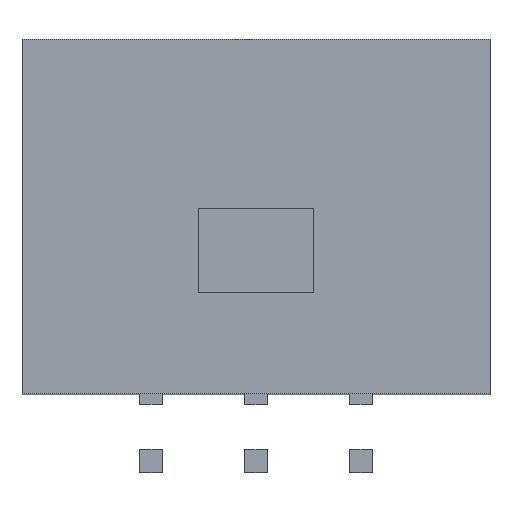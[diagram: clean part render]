
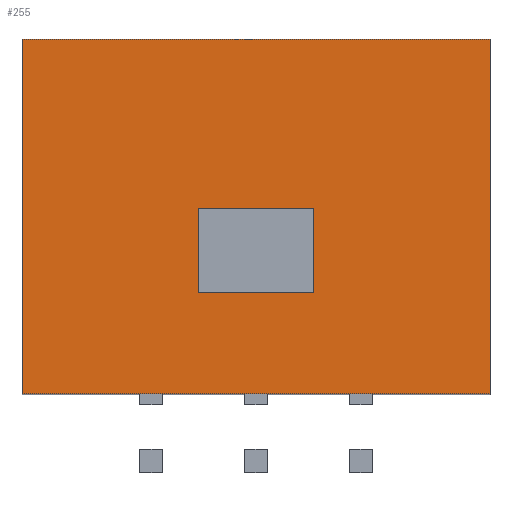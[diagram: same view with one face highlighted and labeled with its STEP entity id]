
A CAD part, top view. The second image highlights one B-rep face of the part: STEP entity #255.
In plain terms, the highlighted planar face has unit normal (0, 0, 1).
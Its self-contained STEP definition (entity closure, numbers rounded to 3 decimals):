
#66 = VERTEX_POINT('',#67);
#67 = CARTESIAN_POINT('',(-3.685,-1.1,9.3));
#74 = PLANE('',#75);
#75 = AXIS2_PLACEMENT_3D('',#76,#77,#78);
#76 = CARTESIAN_POINT('',(-3.685,-1.1,0.));
#77 = DIRECTION('',(1.,0.,0.));
#78 = DIRECTION('',(0.,0.,1.));
#86 = PLANE('',#87);
#87 = AXIS2_PLACEMENT_3D('',#88,#89,#90);
#88 = CARTESIAN_POINT('',(-3.685,-1.1,0.));
#89 = DIRECTION('',(0.,1.,0.));
#90 = DIRECTION('',(0.,0.,1.));
#127 = VERTEX_POINT('',#128);
#128 = CARTESIAN_POINT('',(-3.685,9.03,9.3));
#142 = PLANE('',#143);
#143 = AXIS2_PLACEMENT_3D('',#144,#145,#146);
#144 = CARTESIAN_POINT('',(-3.685,9.03,0.));
#145 = DIRECTION('',(0.,1.,0.));
#146 = DIRECTION('',(0.,0.,1.));
#154 = EDGE_CURVE('',#66,#127,#155,.T.);
#155 = SURFACE_CURVE('',#156,(#160,#167),.PCURVE_S1.);
#156 = LINE('',#157,#158);
#157 = CARTESIAN_POINT('',(-3.685,-1.1,9.3));
#158 = VECTOR('',#159,1.);
#159 = DIRECTION('',(0.,1.,0.));
#160 = PCURVE('',#74,#161);
#161 = DEFINITIONAL_REPRESENTATION('',(#162),#166);
#162 = LINE('',#163,#164);
#163 = CARTESIAN_POINT('',(9.3,0.));
#164 = VECTOR('',#165,1.);
#165 = DIRECTION('',(0.,-1.));
#166 = ( GEOMETRIC_REPRESENTATION_CONTEXT(2) 
PARAMETRIC_REPRESENTATION_CONTEXT() REPRESENTATION_CONTEXT('2D SPACE',''
  ) );
#167 = PCURVE('',#168,#173);
#168 = PLANE('',#169);
#169 = AXIS2_PLACEMENT_3D('',#170,#171,#172);
#170 = CARTESIAN_POINT('',(-3.685,-1.1,9.3));
#171 = DIRECTION('',(0.,0.,1.));
#172 = DIRECTION('',(1.,0.,0.));
#173 = DEFINITIONAL_REPRESENTATION('',(#174),#178);
#174 = LINE('',#175,#176);
#175 = CARTESIAN_POINT('',(0.,0.));
#176 = VECTOR('',#177,1.);
#177 = DIRECTION('',(0.,1.));
#178 = ( GEOMETRIC_REPRESENTATION_CONTEXT(2) 
PARAMETRIC_REPRESENTATION_CONTEXT() REPRESENTATION_CONTEXT('2D SPACE',''
  ) );
#207 = EDGE_CURVE('',#66,#208,#210,.T.);
#208 = VERTEX_POINT('',#209);
#209 = CARTESIAN_POINT('',(9.685,-1.1,9.3));
#210 = SURFACE_CURVE('',#211,(#215,#222),.PCURVE_S1.);
#211 = LINE('',#212,#213);
#212 = CARTESIAN_POINT('',(-3.685,-1.1,9.3));
#213 = VECTOR('',#214,1.);
#214 = DIRECTION('',(1.,0.,0.));
#215 = PCURVE('',#86,#216);
#216 = DEFINITIONAL_REPRESENTATION('',(#217),#221);
#217 = LINE('',#218,#219);
#218 = CARTESIAN_POINT('',(9.3,0.));
#219 = VECTOR('',#220,1.);
#220 = DIRECTION('',(0.,1.));
#221 = ( GEOMETRIC_REPRESENTATION_CONTEXT(2) 
PARAMETRIC_REPRESENTATION_CONTEXT() REPRESENTATION_CONTEXT('2D SPACE',''
  ) );
#222 = PCURVE('',#168,#223);
#223 = DEFINITIONAL_REPRESENTATION('',(#224),#228);
#224 = LINE('',#225,#226);
#225 = CARTESIAN_POINT('',(0.,0.));
#226 = VECTOR('',#227,1.);
#227 = DIRECTION('',(1.,0.));
#228 = ( GEOMETRIC_REPRESENTATION_CONTEXT(2) 
PARAMETRIC_REPRESENTATION_CONTEXT() REPRESENTATION_CONTEXT('2D SPACE',''
  ) );
#244 = PLANE('',#245);
#245 = AXIS2_PLACEMENT_3D('',#246,#247,#248);
#246 = CARTESIAN_POINT('',(9.685,-1.1,0.));
#247 = DIRECTION('',(1.,0.,0.));
#248 = DIRECTION('',(0.,0.,1.));
#255 = ADVANCED_FACE('',(#256,#304),#168,.T.);
#256 = FACE_BOUND('',#257,.T.);
#257 = EDGE_LOOP('',(#258,#259,#260,#283));
#258 = ORIENTED_EDGE('',*,*,#154,.F.);
#259 = ORIENTED_EDGE('',*,*,#207,.T.);
#260 = ORIENTED_EDGE('',*,*,#261,.T.);
#261 = EDGE_CURVE('',#208,#262,#264,.T.);
#262 = VERTEX_POINT('',#263);
#263 = CARTESIAN_POINT('',(9.685,9.03,9.3));
#264 = SURFACE_CURVE('',#265,(#269,#276),.PCURVE_S1.);
#265 = LINE('',#266,#267);
#266 = CARTESIAN_POINT('',(9.685,-1.1,9.3));
#267 = VECTOR('',#268,1.);
#268 = DIRECTION('',(0.,1.,0.));
#269 = PCURVE('',#168,#270);
#270 = DEFINITIONAL_REPRESENTATION('',(#271),#275);
#271 = LINE('',#272,#273);
#272 = CARTESIAN_POINT('',(13.37,0.));
#273 = VECTOR('',#274,1.);
#274 = DIRECTION('',(0.,1.));
#275 = ( GEOMETRIC_REPRESENTATION_CONTEXT(2) 
PARAMETRIC_REPRESENTATION_CONTEXT() REPRESENTATION_CONTEXT('2D SPACE',''
  ) );
#276 = PCURVE('',#244,#277);
#277 = DEFINITIONAL_REPRESENTATION('',(#278),#282);
#278 = LINE('',#279,#280);
#279 = CARTESIAN_POINT('',(9.3,0.));
#280 = VECTOR('',#281,1.);
#281 = DIRECTION('',(0.,-1.));
#282 = ( GEOMETRIC_REPRESENTATION_CONTEXT(2) 
PARAMETRIC_REPRESENTATION_CONTEXT() REPRESENTATION_CONTEXT('2D SPACE',''
  ) );
#283 = ORIENTED_EDGE('',*,*,#284,.F.);
#284 = EDGE_CURVE('',#127,#262,#285,.T.);
#285 = SURFACE_CURVE('',#286,(#290,#297),.PCURVE_S1.);
#286 = LINE('',#287,#288);
#287 = CARTESIAN_POINT('',(-3.685,9.03,9.3));
#288 = VECTOR('',#289,1.);
#289 = DIRECTION('',(1.,0.,0.));
#290 = PCURVE('',#168,#291);
#291 = DEFINITIONAL_REPRESENTATION('',(#292),#296);
#292 = LINE('',#293,#294);
#293 = CARTESIAN_POINT('',(0.,10.13));
#294 = VECTOR('',#295,1.);
#295 = DIRECTION('',(1.,0.));
#296 = ( GEOMETRIC_REPRESENTATION_CONTEXT(2) 
PARAMETRIC_REPRESENTATION_CONTEXT() REPRESENTATION_CONTEXT('2D SPACE',''
  ) );
#297 = PCURVE('',#142,#298);
#298 = DEFINITIONAL_REPRESENTATION('',(#299),#303);
#299 = LINE('',#300,#301);
#300 = CARTESIAN_POINT('',(9.3,0.));
#301 = VECTOR('',#302,1.);
#302 = DIRECTION('',(0.,1.));
#303 = ( GEOMETRIC_REPRESENTATION_CONTEXT(2) 
PARAMETRIC_REPRESENTATION_CONTEXT() REPRESENTATION_CONTEXT('2D SPACE',''
  ) );
#304 = FACE_BOUND('',#305,.T.);
#305 = EDGE_LOOP('',(#306,#336,#364,#392));
#306 = ORIENTED_EDGE('',*,*,#307,.T.);
#307 = EDGE_CURVE('',#308,#310,#312,.T.);
#308 = VERTEX_POINT('',#309);
#309 = CARTESIAN_POINT('',(1.35,1.8,9.3));
#310 = VERTEX_POINT('',#311);
#311 = CARTESIAN_POINT('',(1.35,4.2,9.3));
#312 = SURFACE_CURVE('',#313,(#317,#324),.PCURVE_S1.);
#313 = LINE('',#314,#315);
#314 = CARTESIAN_POINT('',(1.35,1.8,9.3));
#315 = VECTOR('',#316,1.);
#316 = DIRECTION('',(0.,1.,0.));
#317 = PCURVE('',#168,#318);
#318 = DEFINITIONAL_REPRESENTATION('',(#319),#323);
#319 = LINE('',#320,#321);
#320 = CARTESIAN_POINT('',(5.035,2.9));
#321 = VECTOR('',#322,1.);
#322 = DIRECTION('',(0.,1.));
#323 = ( GEOMETRIC_REPRESENTATION_CONTEXT(2) 
PARAMETRIC_REPRESENTATION_CONTEXT() REPRESENTATION_CONTEXT('2D SPACE',''
  ) );
#324 = PCURVE('',#325,#330);
#325 = PLANE('',#326);
#326 = AXIS2_PLACEMENT_3D('',#327,#328,#329);
#327 = CARTESIAN_POINT('',(1.35,1.8,9.3));
#328 = DIRECTION('',(1.,0.,0.));
#329 = DIRECTION('',(0.,0.,1.));
#330 = DEFINITIONAL_REPRESENTATION('',(#331),#335);
#331 = LINE('',#332,#333);
#332 = CARTESIAN_POINT('',(0.,0.));
#333 = VECTOR('',#334,1.);
#334 = DIRECTION('',(0.,-1.));
#335 = ( GEOMETRIC_REPRESENTATION_CONTEXT(2) 
PARAMETRIC_REPRESENTATION_CONTEXT() REPRESENTATION_CONTEXT('2D SPACE',''
  ) );
#336 = ORIENTED_EDGE('',*,*,#337,.T.);
#337 = EDGE_CURVE('',#310,#338,#340,.T.);
#338 = VERTEX_POINT('',#339);
#339 = CARTESIAN_POINT('',(4.65,4.2,9.3));
#340 = SURFACE_CURVE('',#341,(#345,#352),.PCURVE_S1.);
#341 = LINE('',#342,#343);
#342 = CARTESIAN_POINT('',(1.35,4.2,9.3));
#343 = VECTOR('',#344,1.);
#344 = DIRECTION('',(1.,0.,0.));
#345 = PCURVE('',#168,#346);
#346 = DEFINITIONAL_REPRESENTATION('',(#347),#351);
#347 = LINE('',#348,#349);
#348 = CARTESIAN_POINT('',(5.035,5.3));
#349 = VECTOR('',#350,1.);
#350 = DIRECTION('',(1.,0.));
#351 = ( GEOMETRIC_REPRESENTATION_CONTEXT(2) 
PARAMETRIC_REPRESENTATION_CONTEXT() REPRESENTATION_CONTEXT('2D SPACE',''
  ) );
#352 = PCURVE('',#353,#358);
#353 = PLANE('',#354);
#354 = AXIS2_PLACEMENT_3D('',#355,#356,#357);
#355 = CARTESIAN_POINT('',(1.35,4.2,9.3));
#356 = DIRECTION('',(0.,1.,0.));
#357 = DIRECTION('',(0.,0.,1.));
#358 = DEFINITIONAL_REPRESENTATION('',(#359),#363);
#359 = LINE('',#360,#361);
#360 = CARTESIAN_POINT('',(0.,0.));
#361 = VECTOR('',#362,1.);
#362 = DIRECTION('',(0.,1.));
#363 = ( GEOMETRIC_REPRESENTATION_CONTEXT(2) 
PARAMETRIC_REPRESENTATION_CONTEXT() REPRESENTATION_CONTEXT('2D SPACE',''
  ) );
#364 = ORIENTED_EDGE('',*,*,#365,.F.);
#365 = EDGE_CURVE('',#366,#338,#368,.T.);
#366 = VERTEX_POINT('',#367);
#367 = CARTESIAN_POINT('',(4.65,1.8,9.3));
#368 = SURFACE_CURVE('',#369,(#373,#380),.PCURVE_S1.);
#369 = LINE('',#370,#371);
#370 = CARTESIAN_POINT('',(4.65,1.8,9.3));
#371 = VECTOR('',#372,1.);
#372 = DIRECTION('',(0.,1.,0.));
#373 = PCURVE('',#168,#374);
#374 = DEFINITIONAL_REPRESENTATION('',(#375),#379);
#375 = LINE('',#376,#377);
#376 = CARTESIAN_POINT('',(8.335,2.9));
#377 = VECTOR('',#378,1.);
#378 = DIRECTION('',(0.,1.));
#379 = ( GEOMETRIC_REPRESENTATION_CONTEXT(2) 
PARAMETRIC_REPRESENTATION_CONTEXT() REPRESENTATION_CONTEXT('2D SPACE',''
  ) );
#380 = PCURVE('',#381,#386);
#381 = PLANE('',#382);
#382 = AXIS2_PLACEMENT_3D('',#383,#384,#385);
#383 = CARTESIAN_POINT('',(4.65,1.8,9.3));
#384 = DIRECTION('',(1.,0.,0.));
#385 = DIRECTION('',(0.,0.,1.));
#386 = DEFINITIONAL_REPRESENTATION('',(#387),#391);
#387 = LINE('',#388,#389);
#388 = CARTESIAN_POINT('',(0.,0.));
#389 = VECTOR('',#390,1.);
#390 = DIRECTION('',(0.,-1.));
#391 = ( GEOMETRIC_REPRESENTATION_CONTEXT(2) 
PARAMETRIC_REPRESENTATION_CONTEXT() REPRESENTATION_CONTEXT('2D SPACE',''
  ) );
#392 = ORIENTED_EDGE('',*,*,#393,.F.);
#393 = EDGE_CURVE('',#308,#366,#394,.T.);
#394 = SURFACE_CURVE('',#395,(#399,#406),.PCURVE_S1.);
#395 = LINE('',#396,#397);
#396 = CARTESIAN_POINT('',(1.35,1.8,9.3));
#397 = VECTOR('',#398,1.);
#398 = DIRECTION('',(1.,0.,0.));
#399 = PCURVE('',#168,#400);
#400 = DEFINITIONAL_REPRESENTATION('',(#401),#405);
#401 = LINE('',#402,#403);
#402 = CARTESIAN_POINT('',(5.035,2.9));
#403 = VECTOR('',#404,1.);
#404 = DIRECTION('',(1.,0.));
#405 = ( GEOMETRIC_REPRESENTATION_CONTEXT(2) 
PARAMETRIC_REPRESENTATION_CONTEXT() REPRESENTATION_CONTEXT('2D SPACE',''
  ) );
#406 = PCURVE('',#407,#412);
#407 = PLANE('',#408);
#408 = AXIS2_PLACEMENT_3D('',#409,#410,#411);
#409 = CARTESIAN_POINT('',(1.35,1.8,9.3));
#410 = DIRECTION('',(0.,1.,0.));
#411 = DIRECTION('',(0.,0.,1.));
#412 = DEFINITIONAL_REPRESENTATION('',(#413),#417);
#413 = LINE('',#414,#415);
#414 = CARTESIAN_POINT('',(0.,0.));
#415 = VECTOR('',#416,1.);
#416 = DIRECTION('',(0.,1.));
#417 = ( GEOMETRIC_REPRESENTATION_CONTEXT(2) 
PARAMETRIC_REPRESENTATION_CONTEXT() REPRESENTATION_CONTEXT('2D SPACE',''
  ) );
